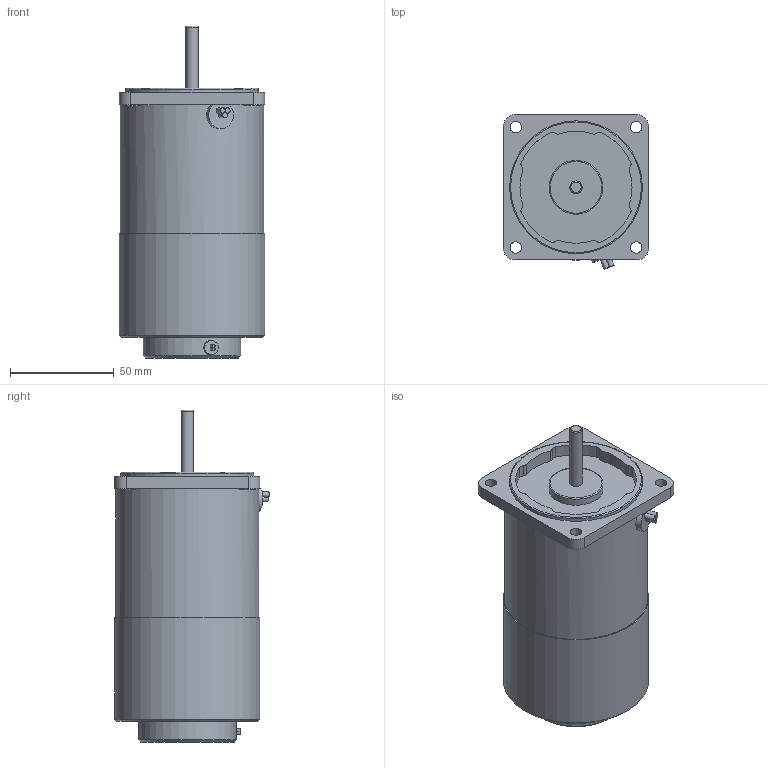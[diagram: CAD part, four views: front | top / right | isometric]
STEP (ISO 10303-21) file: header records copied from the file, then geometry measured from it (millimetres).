
FILE_DESCRIPTION((''),'2;1');
FILE_NAME('E:\2공장-도면\3D\표준형 3D(민규)\step file\D\K7RS15Nㅁ-D.stp','2014-11-17T11:03:22',('AHN'),(''),'Autodesk Inventor 2012','Autodesk Inventor 2012','');
FILE_SCHEMA(('CONFIG_CONTROL_DESIGN'));
Length unit declared in the file: millimetre
Products named in the file (1): K7RS15Nㅁ-D
Bounding box: 70 x 74.51 x 160 mm (x, y, z)
Volume: 465157.1 mm3; surface area: 40188.6 mm2
Topology: 1 solids, 1 shells, 83 faces, 189 edges, 117 vertices
Faces by surface type: cylinder 52, plane 26, torus 3, cone 2
Full cylindrical faces by diameter (mm): 1.4 x2, 5.5 x4, 6 x1, 7 x1, 8 x4, 26 x1, 47 x1, 64 x1, 69 x1, 70 x1
Entity records: 2318 total; most frequent: DIRECTION 437, CARTESIAN_POINT 423, ORIENTED_EDGE 328, AXIS2_PLACEMENT_3D 191, EDGE_CURVE 164, EDGE_LOOP 124, VERTEX_POINT 112, CIRCLE 107
